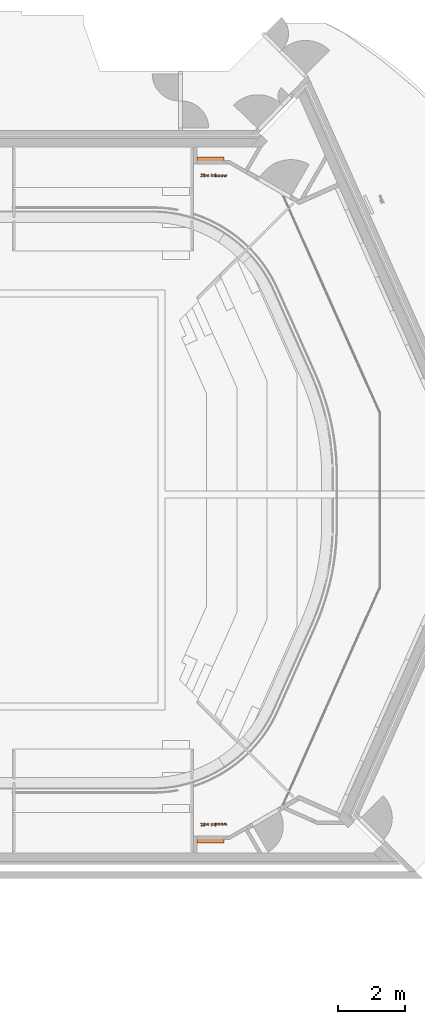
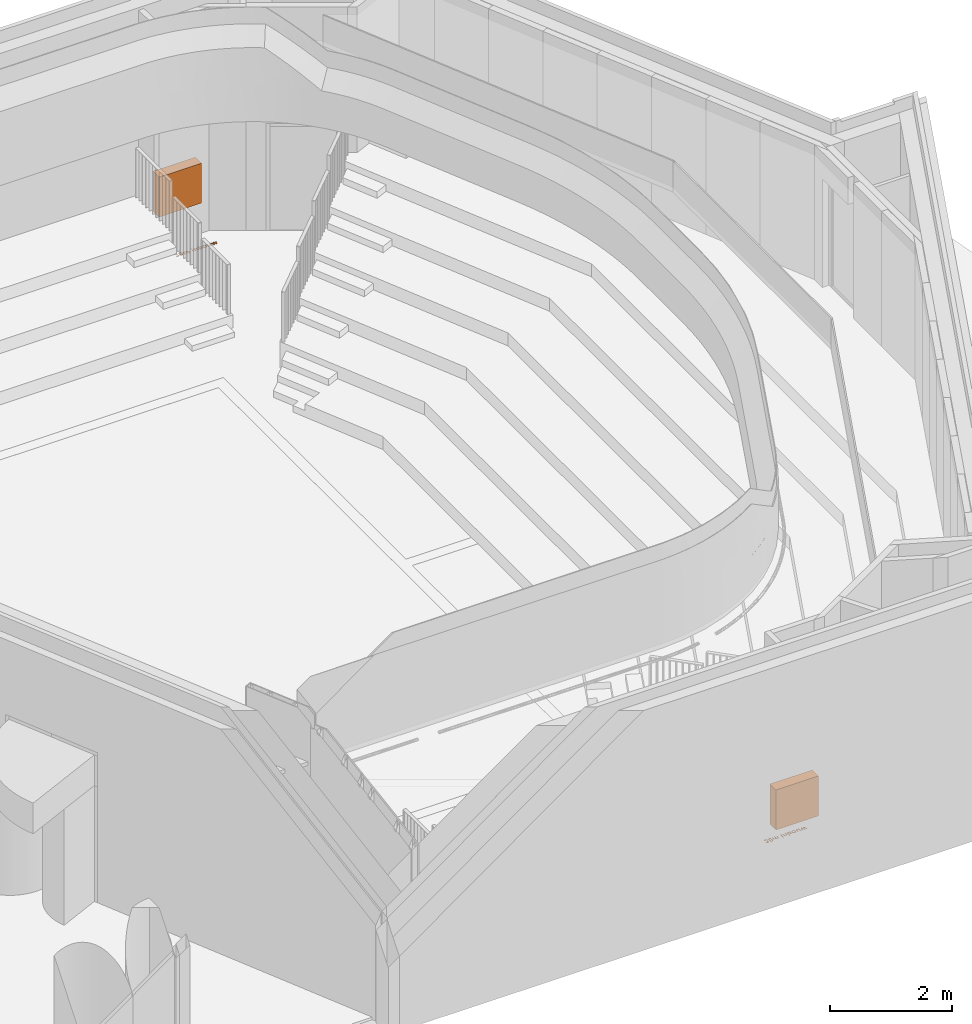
# One storey, part 19 of 19: 2 proxies.
"""IFC2X3 building model written with IfcOpenShell, lengths in millimetres."""

from ifc_helpers import new_model, entity, si_unit, converted_unit, derived_unit, direction, frame, origin, place, context, subcontext, project, spatial, face_set, surface_model, source, transform, mapped, material, type_object, type_shapes, element, save


model = new_model("IFC2X3")

# Units and contexts
model_context = context("Model", 3, precision=0.01, world=origin(), true_north=direction((6.123031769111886e-17, 1.0)))
body_context = subcontext(model_context, "Body", "Model", "MODEL_VIEW")
ifc_project = project(units=[si_unit("LENGTHUNIT", "METRE", prefix="MILLI"), si_unit("AREAUNIT", "SQUARE_METRE"), si_unit("VOLUMEUNIT", "CUBIC_METRE"), converted_unit("PLANEANGLEUNIT", "DEGREE", entity("IfcRatioMeasure", 0.017453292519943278), si_unit("PLANEANGLEUNIT", "RADIAN"), dimensions=[0, 0, 0, 0, 0, 0, 0]), si_unit("MASSUNIT", "GRAM", prefix="KILO"), derived_unit("MASSDENSITYUNIT", [(si_unit("MASSUNIT", "GRAM", prefix="KILO"), 1), (si_unit("LENGTHUNIT", "METRE"), -3)]), derived_unit("MOMENTOFINERTIAUNIT", [(si_unit("LENGTHUNIT", "METRE"), 4)]), si_unit("TIMEUNIT", "SECOND"), si_unit("FREQUENCYUNIT", "HERTZ"), si_unit("THERMODYNAMICTEMPERATUREUNIT", "DEGREE_CELSIUS"), derived_unit("THERMALTRANSMITTANCEUNIT", [(si_unit("MASSUNIT", "GRAM", prefix="KILO"), 1), (si_unit("THERMODYNAMICTEMPERATUREUNIT", "KELVIN"), -1), (si_unit("TIMEUNIT", "SECOND"), -3)]), derived_unit("VOLUMETRICFLOWRATEUNIT", [(si_unit("LENGTHUNIT", "METRE"), 3), (si_unit("TIMEUNIT", "SECOND"), -1)]), derived_unit("MASSFLOWRATEUNIT", [(si_unit("MASSUNIT", "GRAM", prefix="KILO"), 1), (si_unit("TIMEUNIT", "SECOND"), -1)]), derived_unit("ROTATIONALFREQUENCYUNIT", [(si_unit("TIMEUNIT", "SECOND"), -1)]), si_unit("ELECTRICCURRENTUNIT", "AMPERE"), si_unit("ELECTRICVOLTAGEUNIT", "VOLT"), si_unit("POWERUNIT", "WATT"), si_unit("FORCEUNIT", "NEWTON", prefix="KILO"), si_unit("ILLUMINANCEUNIT", "LUX"), si_unit("LUMINOUSFLUXUNIT", "LUMEN"), si_unit("LUMINOUSINTENSITYUNIT", "CANDELA"), derived_unit("USERDEFINED", [(si_unit("MASSUNIT", "GRAM", prefix="KILO"), -1), (si_unit("LENGTHUNIT", "METRE"), -2), (si_unit("TIMEUNIT", "SECOND"), 3), (si_unit("LUMINOUSFLUXUNIT", "LUMEN"), 1)]), derived_unit("SOUNDPOWERUNIT", [(si_unit("MASSUNIT", "GRAM", prefix="KILO"), 1), (si_unit("LENGTHUNIT", "METRE"), 2), (si_unit("TIMEUNIT", "SECOND"), -3)]), derived_unit("SOUNDPRESSUREUNIT", [(si_unit("MASSUNIT", "GRAM", prefix="KILO"), 1), (si_unit("LENGTHUNIT", "METRE"), -1), (si_unit("TIMEUNIT", "SECOND"), -2)]), derived_unit("LINEARVELOCITYUNIT", [(si_unit("LENGTHUNIT", "METRE"), 1), (si_unit("TIMEUNIT", "SECOND"), -1)]), si_unit("PRESSUREUNIT", "PASCAL"), derived_unit("USERDEFINED", [(si_unit("LENGTHUNIT", "METRE"), -2), (si_unit("MASSUNIT", "GRAM", prefix="KILO"), 1), (si_unit("TIMEUNIT", "SECOND"), -2)]), derived_unit("LINEARFORCEUNIT", [(si_unit("MASSUNIT", "GRAM", prefix="KILO"), 1), (si_unit("LENGTHUNIT", "METRE"), 1), (si_unit("TIMEUNIT", "SECOND"), -2), (si_unit("LENGTHUNIT", "METRE"), -1)]), derived_unit("PLANARFORCEUNIT", [(si_unit("MASSUNIT", "GRAM", prefix="KILO"), 1), (si_unit("LENGTHUNIT", "METRE"), 1), (si_unit("TIMEUNIT", "SECOND"), -2), (si_unit("LENGTHUNIT", "METRE"), -2)])], contexts=[model_context])

# Site, building, storey, space
site_placement = place(None, frame((-10000.0, -10000.0, 0.0)))
site = spatial("IfcSite", under=ifc_project, at=site_placement, Name="Default", CompositionType="ELEMENT")
building_placement = place(site_placement, origin())
building = spatial("IfcBuilding", under=site, at=building_placement, CompositionType="ELEMENT")
storey_placement = place(building_placement, frame((0.0, 0.0, 4200.0)))
storey = spatial("IfcBuildingStorey", under=building, at=storey_placement, Name="01 1e verdieping", CompositionType="ELEMENT", Elevation=4200.000000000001)
space_placement = place(storey_placement, origin())
space = spatial("IfcSpace", under=storey, at=space_placement, Name="1.4", CompositionType="ELEMENT", InteriorOrExteriorSpace="INTERNAL")

# Proxies
ifc_material = material(Name="<Unnamed>")
building_element_proxy_type_1 = type_object("IfcBuildingElementProxyType", Name="$9_APX_brandslanghaspel 30m - inbouw:$9_APX_brandslanghaspel 30m - inbouw", PredefinedType="NOTDEFINED", material=ifc_material)
shared_shape_1 = source(origin(), body_context, "Body", "SurfaceModel", [
    surface_model("IfcFaceBasedSurfaceModel", [(400.0, -150.0, 1400.0), (-400.0, -150.0, 1400.0), (-400.0, -150.0, 600.0), (400.0, -150.0, 600.0), (400.0, 50.0, 1400.0), (400.0, 50.0, 600.0), (-400.0, 50.0, 600.0), (-400.0, 50.0, 1400.0), (-296.72120643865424, -514.8578142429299, 0.0), (-293.56210425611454, -526.7966783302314, 0.0), (-286.81297231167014, -536.2243817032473, 0.0), (-277.16205465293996, -542.353473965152, 0.0), (-265.29759532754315, -544.3965047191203, 0.0), (-252.73249116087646, -542.0992576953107, 0.0), (-242.41813104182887, -535.2075166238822, 0.0), (-235.52638997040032, -525.0605672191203, 0.0), (-233.22914294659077, -512.9976951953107, 0.0), (-238.41267469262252, -497.6579134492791, 0.0), (-252.2519604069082, -489.48579043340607, 0.0), (-241.55627588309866, -480.31540352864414, 0.0), (-237.99104770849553, -468.47884598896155, 0.0), (-239.65275405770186, -459.6618817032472, 0.0), (-244.63787310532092, -451.81217932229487, 0.0), (-254.0004723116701, -445.0599471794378, 0.0), (-266.0168413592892, -442.8092031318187, 0.0), (-280.09174215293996, -446.0582110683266, 0.0), (-289.88836913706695, -454.9743817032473, 0.0), (-295.13390485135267, -470.11575075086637, 0.0), (-276.08628580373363, -472.96793329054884, 0.0), (-272.6760675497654, -463.5061277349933, 0.0), (-265.8928334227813, -460.2695205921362, 0.0), (-259.45682151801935, -463.0596991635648, 0.0), (-257.0386667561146, -470.5373777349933, 0.0), (-260.2752738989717, -479.3667428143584, 0.0), (-269.66267469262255, -482.4917428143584, 0.0), (-271.3243810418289, -498.1911475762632, 0.0), (-263.7598969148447, -496.7774571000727, 0.0), (-255.6125754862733, -500.72090948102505, 0.0), (-252.2767619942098, -511.41039360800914, 0.0), (-255.92259532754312, -522.7323182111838, 0.0), (-264.92557151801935, -526.9361872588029, 0.0), (-273.38291278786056, -523.2655523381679, 0.0), (-277.6735873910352, -512.6504729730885, 0.0), (-188.7846985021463, -442.8092031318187, 0.0), (-201.42730762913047, -445.35136583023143, 0.0), (-210.93251596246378, -452.97785392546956, 0.0), (-218.1311766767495, -469.266296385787, 0.0), (-220.53073024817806, -493.4292428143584, 0.0), (-218.34509036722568, -517.703796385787, 0.0), (-211.78817072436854, -533.235790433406, 0.0), (-201.6660229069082, -541.6063261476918, 0.0), (-188.7846985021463, -544.3965047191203, 0.0), (-176.1420893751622, -541.8543420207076, 0.0), (-166.63688104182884, -534.2278539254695, 0.0), (-159.43822032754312, -517.9022090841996, 0.0), (-157.03866675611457, -493.6276555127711, 0.0), (-159.42581953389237, -469.3531019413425, 0.0), (-166.5872778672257, -453.126663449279, 0.0), (-176.1296885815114, -445.3885682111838, 0.0), (-188.7846985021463, -460.2695205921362, 0.0), (-182.47269453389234, -462.3652547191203, 0.0), (-177.8968016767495, -470.71098884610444, 0.0), (-176.0862858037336, -493.6276555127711, 0.0), (-178.12001596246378, -517.313171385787, 0.0), (-182.43549215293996, -524.8404531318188, 0.0), (-188.7846985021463, -526.9361872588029, 0.0), (-195.0967024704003, -524.8652547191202, 0.0), (-199.67259532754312, -516.5567229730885, 0.0), (-201.48311120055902, -493.6276555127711, 0.0), (-199.44938104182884, -469.89253646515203, 0.0), (-195.13390485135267, -462.3652547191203, 0.0), (19.151809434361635, -542.8092031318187, 0.0), (38.19942848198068, -542.8092031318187, 0.0), (38.19942848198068, -469.7933301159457, 0.0), (19.151809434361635, -469.7933301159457, 0.0), (19.151809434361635, -460.2695205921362, 0.0), (38.19942848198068, -460.2695205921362, 0.0), (38.19942848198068, -442.8092031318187, 0.0), (19.151809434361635, -442.8092031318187, 0.0), (-142.7529524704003, -469.7933301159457, 0.0), (-142.7529524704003, -542.8092031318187, 0.0), (-123.70533342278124, -542.8092031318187, 0.0), (-123.70533342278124, -507.0701158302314, 0.0), (-122.217238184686, -491.9039451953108, 0.0), (-117.3065238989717, -484.9098975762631, 0.0), (-109.59323024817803, -482.4917428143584, 0.0), (-103.95086913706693, -484.017040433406, 0.0), (-100.8878731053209, -488.6549372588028, 0.0), (-99.89580961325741, -502.5066237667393, 0.0), (-99.89580961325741, -542.8092031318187, 0.0), (-80.84819056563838, -542.8092031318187, 0.0), (-80.84819056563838, -507.4917428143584, 0.0), (-79.32289294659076, -492.28836979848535, 0.0), (-74.33777389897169, -484.9843023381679, 0.0), (-66.95930167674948, -482.4917428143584, 0.0), (-58.97319056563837, -486.65840948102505, 0.0), (-57.03866675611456, -500.77051265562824, 0.0), (-57.03866675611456, -542.8092031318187, 0.0), (-37.99104770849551, -542.8092031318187, 0.0), (-37.99104770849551, -496.157417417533, 0.0), (-39.92557151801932, -481.0532507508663, 0.0), (-48.06049215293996, -471.4674372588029, 0.0), (-61.32934135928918, -468.2060285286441, 0.0), (-72.9488850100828, -470.99620710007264, 0.0), (-83.08033342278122, -479.4411475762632, 0.0), (-91.00444056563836, -470.99620710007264, 0.0), (-102.40076993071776, -468.2060285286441, 0.0), (-113.90250604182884, -471.0458102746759, 0.0), (-123.70533342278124, -479.5651555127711, 0.0), (-123.70533342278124, -469.7933301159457, 0.0), (122.32641260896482, -542.8092031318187, 0.0), (122.32641260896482, -497.47190154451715, 0.0), (121.3219483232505, -484.48827059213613, 0.0), (117.73811895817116, -476.39055233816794, 0.0), (110.14883324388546, -470.51257614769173, 0.0), (99.0873253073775, -468.2060285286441, 0.0), (86.51912094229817, -471.2318221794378, 0.0), (76.29466657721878, -480.3092031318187, 0.0), (76.29466657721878, -469.7933301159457, 0.0), (57.24704752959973, -469.7933301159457, 0.0), (57.24704752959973, -542.8092031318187, 0.0), (76.29466657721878, -542.8092031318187, 0.0), (76.29466657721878, -509.500671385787, 0.0), (77.72075784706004, -492.5983896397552, 0.0), (83.00349594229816, -485.2571197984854, 0.0), (91.72125387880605, -482.4917428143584, 0.0), (98.19446816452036, -484.42626662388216, 0.0), (102.08831737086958, -489.85781424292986, 0.0), (103.27879356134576, -505.2844015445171, 0.0), (103.27879356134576, -542.8092031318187, 0.0), (141.37403165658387, -542.8092031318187, 0.0), (160.4216507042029, -542.8092031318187, 0.0), (160.4216507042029, -532.2933301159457, 0.0), (170.40428959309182, -541.345909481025, 0.0), (182.14784118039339, -544.3965047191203, 0.0), (193.3457578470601, -541.8729432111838, 0.0), (202.73315864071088, -534.3022586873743, 0.0), (209.094765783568, -522.0688757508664, 0.0), (211.21530149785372, -505.5572190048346, 0.0), (209.08236498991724, -489.60359797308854, 0.0), (202.6835554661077, -477.8538459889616, 0.0), (193.02333721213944, -470.61798289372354, 0.0), (181.10617451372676, -468.2060285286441, 0.0), (169.95786102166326, -470.704788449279, 0.0), (160.4216507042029, -478.2010682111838, 0.0), (160.4216507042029, -442.8092031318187, 0.0), (141.37403165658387, -442.8092031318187, 0.0), (160.4216507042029, -504.9123777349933, 0.0), (164.9479403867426, -488.04729836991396, 0.0), (176.29466657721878, -482.4917428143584, 0.0), (187.7157975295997, -488.1837071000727, 0.0), (192.16768245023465, -506.77249678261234, 0.0), (187.7405991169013, -524.4808301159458, 0.0), (177.03871419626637, -530.110790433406, 0.0), (169.67264276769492, -528.126663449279, 0.0), (163.94347610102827, -522.1742824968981, 0.0), (220.73911102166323, -505.2595999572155, 0.0), (225.43901181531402, -526.5889650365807, 0.0), (239.15428959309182, -539.8702150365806, 0.0), (258.1151030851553, -544.3965047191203, 0.0), (272.797642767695, -541.6776307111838, 0.0), (284.7520078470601, -533.5210086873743, 0.0), (292.69471618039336, -521.228721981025, 0.0), (295.34228562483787, -506.1028539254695, 0.0), (292.72261796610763, -491.10409400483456, 0.0), (284.8636149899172, -478.94511583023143, 0.0), (272.899949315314, -470.89080035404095, 0.0), (257.9662935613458, -468.2060285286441, 0.0), (238.74506340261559, -472.9431317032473, 0.0), (225.43901181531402, -486.67081027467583, 0.0), (239.7867300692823, -506.3012666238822, 0.0), (241.1043143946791, -496.11711483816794, 0.0), (245.05706737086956, -488.63013567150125, 0.0), (250.94434415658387, -484.0263410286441, 0.0), (258.06549991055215, -482.4917428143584, 0.0), (265.180455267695, -484.0263410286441, 0.0), (271.04913086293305, -488.63013567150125, 0.0), (274.9832826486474, -496.0799124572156, 0.0), (276.2946665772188, -506.1524571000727, 0.0), (274.9832826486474, -516.4482160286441, 0.0), (271.04913086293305, -523.9723975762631, 0.0), (265.180455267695, -528.5761922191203, 0.0), (258.06549991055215, -530.110790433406, 0.0), (250.94434415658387, -528.5761922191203, 0.0), (245.05706737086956, -523.9723975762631, 0.0), (241.1043143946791, -516.4854184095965, 0.0), (355.6597459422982, -542.8092031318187, 0.0), (374.7073649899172, -542.8092031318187, 0.0), (374.7073649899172, -469.7933301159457, 0.0), (355.6597459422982, -469.7933301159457, 0.0), (355.6597459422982, -500.77051265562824, 0.0), (354.2584562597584, -520.5993817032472, 0.0), (349.0501229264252, -527.3826158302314, 0.0), (340.4315713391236, -530.110790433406, 0.0), (333.4747261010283, -528.064659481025, 0.0), (329.70488483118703, -522.5339055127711, 0.0), (328.6756189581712, -503.548290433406, 0.0), (328.6756189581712, -469.7933301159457, 0.0), (309.62799991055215, -469.7933301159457, 0.0), (309.62799991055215, -515.9490840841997, 0.0), (312.10815864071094, -532.1073182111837, 0.0), (320.14387292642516, -541.172298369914, 0.0), (332.66867451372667, -544.3965047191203, 0.0), (345.7019086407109, -541.11029440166, 0.0), (355.6597459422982, -532.094917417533, 0.0), (408.9831586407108, -542.8092031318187, 0.0), (427.95637292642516, -542.8092031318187, 0.0), (440.5803808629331, -495.85979836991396, 0.0), (453.5268094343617, -542.8092031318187, 0.0), (472.2272062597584, -542.8092031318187, 0.0), (495.34228562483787, -469.7933301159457, 0.0), (476.56748403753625, -469.7933301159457, 0.0), (462.80260308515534, -517.6355920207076, 0.0), (450.2778014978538, -469.7933301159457, 0.0), (431.18057927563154, -469.7933301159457, 0.0), (418.3581586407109, -517.6355920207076, 0.0), (404.64288086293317, -469.7933301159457, 0.0), (385.81847610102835, -469.7933301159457, 0.0)], [face_set([[[0, 1, 2, 3]], [[4, 5, 6, 7]], [[1, 0, 4, 7]], [[2, 1, 7, 6]], [[3, 2, 6, 5]], [[0, 3, 5, 4]]]), face_set([[[8, 9, 10, 11, 12, 13, 14, 15, 16, 17, 18, 19, 20, 21, 22, 23, 24, 25, 26, 27, 28, 29, 30, 31, 32, 33, 34, 35, 36, 37, 38, 39, 40, 41, 42]], [[43, 44, 45, 46, 47, 48, 49, 50, 51, 52, 53, 54, 55, 56, 57, 58], [59, 60, 61, 62, 63, 64, 65, 66, 67, 68, 69, 70]], [[71, 72, 73, 74]], [[75, 76, 77, 78]], [[79, 80, 81, 82, 83, 84, 85, 86, 87, 88, 89, 90, 91, 92, 93, 94, 95, 96, 97, 98, 99, 100, 101, 102, 103, 104, 105, 106, 107, 108, 109]], [[110, 111, 112, 113, 114, 115, 116, 117, 118, 119, 120, 121, 122, 123, 124, 125, 126, 127, 128, 129]], [[130, 131, 132, 133, 134, 135, 136, 137, 138, 139, 140, 141, 142, 143, 144, 145, 146], [147, 148, 149, 150, 151, 152, 153, 154, 155]], [[156, 157, 158, 159, 160, 161, 162, 163, 164, 165, 166, 167, 168, 169], [170, 171, 172, 173, 174, 175, 176, 177, 178, 179, 180, 181, 182, 183, 184, 185]], [[186, 187, 188, 189, 190, 191, 192, 193, 194, 195, 196, 197, 198, 199, 200, 201, 202, 203, 204]], [[205, 206, 207, 208, 209, 210, 211, 212, 213, 214, 215, 216, 217]]])]),
])
type_shapes(building_element_proxy_type_1, [shared_shape_1])
proxy_1_placement = place(space_placement, frame((37210.0, 48802.0, 25.0)))
element("IfcBuildingElementProxy", 1, at=proxy_1_placement, inside=space, type_object=building_element_proxy_type_1, material=ifc_material, Name="$9_APX_brandslanghaspel 30m - inbouw:$9_APX_brandslanghaspel 30m - inbouw", ObjectType="$9_APX_brandslanghaspel 30m - inbouw:$9_APX_brandslanghaspel 30m - inbouw", context=body_context, shape_type="MappedRepresentation", body=[
    mapped(shared_shape_1, transform((0.0, 0.0, 0.0), scale=1.0)),
])
building_element_proxy_type_2 = type_object("IfcBuildingElementProxyType", Name="$9_APX_brandslanghaspel 30m - inbouw:$9_APX_brandslanghaspel 30m - inbouw", PredefinedType="NOTDEFINED", material=ifc_material)
shared_shape_2 = source(origin(), body_context, "Body", "SurfaceModel", [
    surface_model("IfcFaceBasedSurfaceModel", [(400.0, 150.0, 1400.0), (400.0, 150.0, 600.0), (-400.0, 150.0, 600.0), (-400.0, 150.0, 1400.0), (400.0, -50.0, 1400.0), (-400.0, -50.0, 1400.0), (-400.0, -50.0, 600.0), (400.0, -50.0, 600.0), (-296.72120643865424, 514.8578142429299, 0.0), (-277.6735873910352, 512.6504729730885, 0.0), (-273.38291278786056, 523.2655523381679, 0.0), (-264.92557151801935, 526.9361872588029, 0.0), (-255.92259532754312, 522.7323182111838, 0.0), (-252.2767619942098, 511.41039360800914, 0.0), (-255.6125754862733, 500.72090948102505, 0.0), (-263.7598969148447, 496.7774571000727, 0.0), (-271.3243810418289, 498.1911475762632, 0.0), (-269.66267469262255, 482.4917428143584, 0.0), (-260.2752738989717, 479.3667428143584, 0.0), (-257.0386667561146, 470.5373777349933, 0.0), (-259.45682151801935, 463.0596991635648, 0.0), (-265.8928334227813, 460.2695205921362, 0.0), (-272.6760675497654, 463.5061277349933, 0.0), (-276.08628580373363, 472.96793329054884, 0.0), (-295.13390485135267, 470.11575075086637, 0.0), (-289.88836913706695, 454.9743817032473, 0.0), (-280.09174215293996, 446.0582110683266, 0.0), (-266.0168413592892, 442.8092031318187, 0.0), (-254.0004723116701, 445.0599471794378, 0.0), (-244.63787310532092, 451.81217932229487, 0.0), (-239.65275405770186, 459.6618817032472, 0.0), (-237.99104770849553, 468.47884598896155, 0.0), (-241.55627588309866, 480.31540352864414, 0.0), (-252.2519604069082, 489.48579043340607, 0.0), (-238.41267469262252, 497.6579134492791, 0.0), (-233.22914294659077, 512.9976951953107, 0.0), (-235.52638997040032, 525.0605672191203, 0.0), (-242.41813104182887, 535.2075166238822, 0.0), (-252.73249116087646, 542.0992576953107, 0.0), (-265.29759532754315, 544.3965047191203, 0.0), (-277.16205465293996, 542.353473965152, 0.0), (-286.81297231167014, 536.2243817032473, 0.0), (-293.56210425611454, 526.7966783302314, 0.0), (-188.7846985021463, 442.8092031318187, 0.0), (-176.1296885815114, 445.3885682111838, 0.0), (-166.5872778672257, 453.126663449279, 0.0), (-159.42581953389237, 469.3531019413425, 0.0), (-157.03866675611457, 493.6276555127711, 0.0), (-159.43822032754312, 517.9022090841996, 0.0), (-166.63688104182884, 534.2278539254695, 0.0), (-176.1420893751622, 541.8543420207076, 0.0), (-188.7846985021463, 544.3965047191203, 0.0), (-201.6660229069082, 541.6063261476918, 0.0), (-211.78817072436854, 533.235790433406, 0.0), (-218.34509036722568, 517.703796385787, 0.0), (-220.53073024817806, 493.4292428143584, 0.0), (-218.1311766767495, 469.266296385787, 0.0), (-210.93251596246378, 452.97785392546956, 0.0), (-201.42730762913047, 445.35136583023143, 0.0), (-188.7846985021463, 460.2695205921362, 0.0), (-195.13390485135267, 462.3652547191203, 0.0), (-199.44938104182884, 469.89253646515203, 0.0), (-201.48311120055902, 493.6276555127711, 0.0), (-199.67259532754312, 516.5567229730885, 0.0), (-195.0967024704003, 524.8652547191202, 0.0), (-188.7846985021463, 526.9361872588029, 0.0), (-182.43549215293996, 524.8404531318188, 0.0), (-178.12001596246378, 517.313171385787, 0.0), (-176.0862858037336, 493.6276555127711, 0.0), (-177.8968016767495, 470.71098884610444, 0.0), (-182.47269453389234, 462.3652547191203, 0.0), (19.151809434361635, 542.8092031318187, 0.0), (19.151809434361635, 469.7933301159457, 0.0), (38.19942848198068, 469.7933301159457, 0.0), (38.19942848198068, 542.8092031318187, 0.0), (19.151809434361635, 460.2695205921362, 0.0), (19.151809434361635, 442.8092031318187, 0.0), (38.19942848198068, 442.8092031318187, 0.0), (38.19942848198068, 460.2695205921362, 0.0), (-142.7529524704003, 469.7933301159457, 0.0), (-123.70533342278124, 469.7933301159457, 0.0), (-123.70533342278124, 479.5651555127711, 0.0), (-113.90250604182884, 471.0458102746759, 0.0), (-102.40076993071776, 468.2060285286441, 0.0), (-91.00444056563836, 470.99620710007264, 0.0), (-83.08033342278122, 479.4411475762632, 0.0), (-72.9488850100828, 470.99620710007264, 0.0), (-61.32934135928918, 468.2060285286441, 0.0), (-48.06049215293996, 471.4674372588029, 0.0), (-39.92557151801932, 481.0532507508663, 0.0), (-37.99104770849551, 496.157417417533, 0.0), (-37.99104770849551, 542.8092031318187, 0.0), (-57.03866675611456, 542.8092031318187, 0.0), (-57.03866675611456, 500.77051265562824, 0.0), (-58.97319056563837, 486.65840948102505, 0.0), (-66.95930167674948, 482.4917428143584, 0.0), (-74.33777389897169, 484.9843023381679, 0.0), (-79.32289294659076, 492.28836979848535, 0.0), (-80.84819056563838, 507.4917428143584, 0.0), (-80.84819056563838, 542.8092031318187, 0.0), (-99.89580961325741, 542.8092031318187, 0.0), (-99.89580961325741, 502.5066237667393, 0.0), (-100.8878731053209, 488.6549372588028, 0.0), (-103.95086913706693, 484.017040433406, 0.0), (-109.59323024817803, 482.4917428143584, 0.0), (-117.3065238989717, 484.9098975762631, 0.0), (-122.217238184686, 491.9039451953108, 0.0), (-123.70533342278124, 507.0701158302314, 0.0), (-123.70533342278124, 542.8092031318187, 0.0), (-142.7529524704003, 542.8092031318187, 0.0), (122.32641260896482, 542.8092031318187, 0.0), (103.27879356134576, 542.8092031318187, 0.0), (103.27879356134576, 505.2844015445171, 0.0), (102.08831737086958, 489.85781424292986, 0.0), (98.19446816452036, 484.42626662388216, 0.0), (91.72125387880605, 482.4917428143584, 0.0), (83.00349594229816, 485.2571197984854, 0.0), (77.72075784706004, 492.5983896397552, 0.0), (76.29466657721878, 509.500671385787, 0.0), (76.29466657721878, 542.8092031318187, 0.0), (57.24704752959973, 542.8092031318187, 0.0), (57.24704752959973, 469.7933301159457, 0.0), (76.29466657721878, 469.7933301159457, 0.0), (76.29466657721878, 480.3092031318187, 0.0), (86.51912094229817, 471.2318221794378, 0.0), (99.0873253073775, 468.2060285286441, 0.0), (110.14883324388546, 470.51257614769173, 0.0), (117.73811895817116, 476.39055233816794, 0.0), (121.3219483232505, 484.48827059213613, 0.0), (122.32641260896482, 497.47190154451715, 0.0), (141.37403165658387, 542.8092031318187, 0.0), (141.37403165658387, 442.8092031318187, 0.0), (160.4216507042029, 442.8092031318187, 0.0), (160.4216507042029, 478.2010682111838, 0.0), (169.95786102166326, 470.704788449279, 0.0), (181.10617451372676, 468.2060285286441, 0.0), (193.02333721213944, 470.61798289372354, 0.0), (202.6835554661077, 477.8538459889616, 0.0), (209.08236498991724, 489.60359797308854, 0.0), (211.21530149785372, 505.5572190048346, 0.0), (209.094765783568, 522.0688757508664, 0.0), (202.73315864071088, 534.3022586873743, 0.0), (193.3457578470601, 541.8729432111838, 0.0), (182.14784118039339, 544.3965047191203, 0.0), (170.40428959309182, 541.345909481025, 0.0), (160.4216507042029, 532.2933301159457, 0.0), (160.4216507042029, 542.8092031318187, 0.0), (160.4216507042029, 504.9123777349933, 0.0), (163.94347610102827, 522.1742824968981, 0.0), (169.67264276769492, 528.126663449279, 0.0), (177.03871419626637, 530.110790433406, 0.0), (187.7405991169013, 524.4808301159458, 0.0), (192.16768245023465, 506.77249678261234, 0.0), (187.7157975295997, 488.1837071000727, 0.0), (176.29466657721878, 482.4917428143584, 0.0), (164.9479403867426, 488.04729836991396, 0.0), (220.73911102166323, 505.2595999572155, 0.0), (225.43901181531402, 486.67081027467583, 0.0), (238.74506340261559, 472.9431317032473, 0.0), (257.9662935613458, 468.2060285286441, 0.0), (272.899949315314, 470.89080035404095, 0.0), (284.8636149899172, 478.94511583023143, 0.0), (292.72261796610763, 491.10409400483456, 0.0), (295.34228562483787, 506.1028539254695, 0.0), (292.69471618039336, 521.228721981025, 0.0), (284.7520078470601, 533.5210086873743, 0.0), (272.797642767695, 541.6776307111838, 0.0), (258.1151030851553, 544.3965047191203, 0.0), (239.15428959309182, 539.8702150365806, 0.0), (225.43901181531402, 526.5889650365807, 0.0), (239.7867300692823, 506.3012666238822, 0.0), (241.1043143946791, 516.4854184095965, 0.0), (245.05706737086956, 523.9723975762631, 0.0), (250.94434415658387, 528.5761922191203, 0.0), (258.06549991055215, 530.110790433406, 0.0), (265.180455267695, 528.5761922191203, 0.0), (271.04913086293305, 523.9723975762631, 0.0), (274.9832826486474, 516.4482160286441, 0.0), (276.2946665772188, 506.1524571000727, 0.0), (274.9832826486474, 496.0799124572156, 0.0), (271.04913086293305, 488.63013567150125, 0.0), (265.180455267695, 484.0263410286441, 0.0), (258.06549991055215, 482.4917428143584, 0.0), (250.94434415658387, 484.0263410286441, 0.0), (245.05706737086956, 488.63013567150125, 0.0), (241.1043143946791, 496.11711483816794, 0.0), (355.6597459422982, 542.8092031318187, 0.0), (355.6597459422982, 532.094917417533, 0.0), (345.7019086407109, 541.11029440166, 0.0), (332.66867451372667, 544.3965047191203, 0.0), (320.14387292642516, 541.172298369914, 0.0), (312.10815864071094, 532.1073182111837, 0.0), (309.62799991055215, 515.9490840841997, 0.0), (309.62799991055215, 469.7933301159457, 0.0), (328.6756189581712, 469.7933301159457, 0.0), (328.6756189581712, 503.548290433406, 0.0), (329.70488483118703, 522.5339055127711, 0.0), (333.4747261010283, 528.064659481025, 0.0), (340.4315713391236, 530.110790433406, 0.0), (349.0501229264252, 527.3826158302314, 0.0), (354.2584562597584, 520.5993817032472, 0.0), (355.6597459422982, 500.77051265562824, 0.0), (355.6597459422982, 469.7933301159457, 0.0), (374.7073649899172, 469.7933301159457, 0.0), (374.7073649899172, 542.8092031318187, 0.0), (408.9831586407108, 542.8092031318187, 0.0), (385.81847610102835, 469.7933301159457, 0.0), (404.64288086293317, 469.7933301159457, 0.0), (418.3581586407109, 517.6355920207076, 0.0), (431.18057927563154, 469.7933301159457, 0.0), (450.2778014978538, 469.7933301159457, 0.0), (462.80260308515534, 517.6355920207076, 0.0), (476.56748403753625, 469.7933301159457, 0.0), (495.34228562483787, 469.7933301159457, 0.0), (472.2272062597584, 542.8092031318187, 0.0), (453.5268094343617, 542.8092031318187, 0.0), (440.5803808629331, 495.85979836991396, 0.0), (427.95637292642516, 542.8092031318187, 0.0)], [face_set([[[0, 1, 2, 3]], [[4, 5, 6, 7]], [[3, 5, 4, 0]], [[2, 6, 5, 3]], [[1, 7, 6, 2]], [[0, 4, 7, 1]]]), face_set([[[8, 9, 10, 11, 12, 13, 14, 15, 16, 17, 18, 19, 20, 21, 22, 23, 24, 25, 26, 27, 28, 29, 30, 31, 32, 33, 34, 35, 36, 37, 38, 39, 40, 41, 42]], [[43, 44, 45, 46, 47, 48, 49, 50, 51, 52, 53, 54, 55, 56, 57, 58], [59, 60, 61, 62, 63, 64, 65, 66, 67, 68, 69, 70]], [[71, 72, 73, 74]], [[75, 76, 77, 78]], [[79, 80, 81, 82, 83, 84, 85, 86, 87, 88, 89, 90, 91, 92, 93, 94, 95, 96, 97, 98, 99, 100, 101, 102, 103, 104, 105, 106, 107, 108, 109]], [[110, 111, 112, 113, 114, 115, 116, 117, 118, 119, 120, 121, 122, 123, 124, 125, 126, 127, 128, 129]], [[130, 131, 132, 133, 134, 135, 136, 137, 138, 139, 140, 141, 142, 143, 144, 145, 146], [147, 148, 149, 150, 151, 152, 153, 154, 155]], [[156, 157, 158, 159, 160, 161, 162, 163, 164, 165, 166, 167, 168, 169], [170, 171, 172, 173, 174, 175, 176, 177, 178, 179, 180, 181, 182, 183, 184, 185]], [[186, 187, 188, 189, 190, 191, 192, 193, 194, 195, 196, 197, 198, 199, 200, 201, 202, 203, 204]], [[205, 206, 207, 208, 209, 210, 211, 212, 213, 214, 215, 216, 217]]])]),
])
type_shapes(building_element_proxy_type_2, [shared_shape_2])
proxy_2_placement = place(space_placement, frame((37210.0, 28475.0, 25.0)))
element("IfcBuildingElementProxy", 2, at=proxy_2_placement, inside=space, type_object=building_element_proxy_type_2, material=ifc_material, Name="$9_APX_brandslanghaspel 30m - inbouw:$9_APX_brandslanghaspel 30m - inbouw", ObjectType="$9_APX_brandslanghaspel 30m - inbouw:$9_APX_brandslanghaspel 30m - inbouw", context=body_context, shape_type="MappedRepresentation", body=[
    mapped(shared_shape_2, transform((0.0, 0.0, 0.0), scale=1.0)),
])

save(model, "model.ifc")
